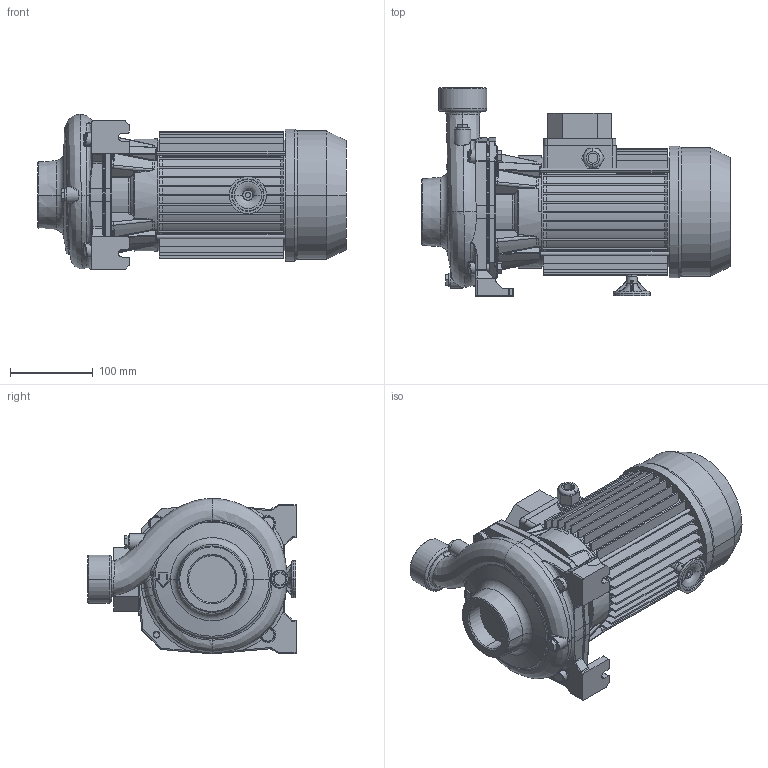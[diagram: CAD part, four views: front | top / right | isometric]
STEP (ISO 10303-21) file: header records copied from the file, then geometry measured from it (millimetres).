
FILE_DESCRIPTION((''),'2;1');
FILE_NAME('CMB_150T_IE3_ASM','2017-07-30T',('rosa'),('"Ebara Pumps Europe +39.444.706811"'),'PRO/ENGINEER BY PARAMETRIC TECHNOLOGY CORPORATION, 2012130','PRO/ENGINEER BY PARAMETRIC TECHNOLOGY CORPORATION, 2012130','');
FILE_SCHEMA(('AUTOMOTIVE_DESIGN { 1 0 10303 214 1 1 1 1 }'));
Length unit declared in the file: millimetre
Products named in the file (5): MEC_80X130_IE3; 80536; 20521; 72001; CMB_150T_IE3_ASM
Assembly tree (4 placements, depth 2):
  CMB_150T_IE3_ASM
    MEC_80X130_IE3
    80536
    20521
    72001
Bounding box: 373 x 251.5 x 187.58 mm (x, y, z)
Volume: 4636806.6 mm3; surface area: 587010.4 mm2
Topology: 4 solids, 10 shells, 1346 faces, 3220 edges, 1921 vertices
Faces by surface type: plane 418, bspline 384, cylinder 312, cone 112, torus 100, sphere 20
Entity records: 68632 total; most frequent: CARTESIAN_POINT 30020, ORIENTED_EDGE 6412, DIRECTION 5422, EDGE_CURVE 3214, PRESENTATION_STYLE_ASSIGNMENT 2520, STYLED_ITEM 2520, CURVE_STYLE 2295, AXIS2_PLACEMENT_3D 2148
